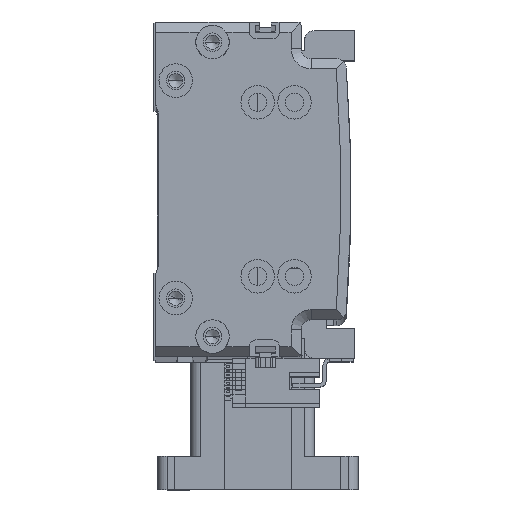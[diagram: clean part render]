
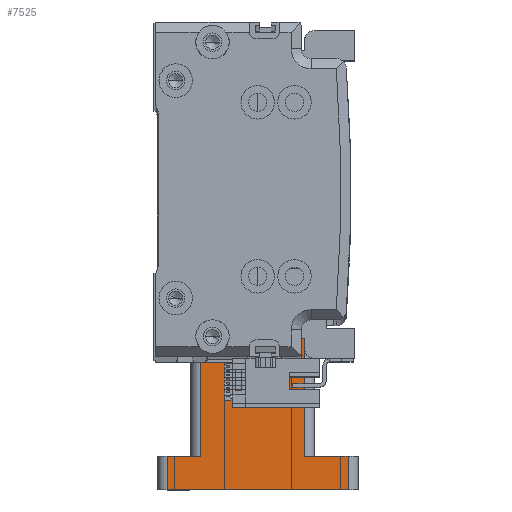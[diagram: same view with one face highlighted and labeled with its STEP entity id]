
A CAD part, top view. The second image highlights one B-rep face of the part: STEP entity #7525.
In plain terms, the highlighted planar face has unit normal (0, 0, 1) as drawn and (-1, 0, 0) by its records, which use the part's own axes.
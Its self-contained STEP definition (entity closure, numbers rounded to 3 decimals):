
#526 = LINE ( 'NONE', #13974, #32577 ) ;
#1551 = CARTESIAN_POINT ( 'NONE',  ( -30., -27., 44. ) ) ;
#2839 = DIRECTION ( 'NONE',  ( 0., 0., -1. ) ) ;
#3005 = DIRECTION ( 'NONE',  ( 1., 0., 0. ) ) ;
#3063 = VERTEX_POINT ( 'NONE', #5223 ) ;
#3172 = PLANE ( 'NONE',  #47792 ) ;
#5223 = CARTESIAN_POINT ( 'NONE',  ( -30., -27., 54. ) ) ;
#5946 = CARTESIAN_POINT ( 'NONE',  ( -30., 14., 0. ) ) ;
#6254 = CARTESIAN_POINT ( 'NONE',  ( -30., 14., 44. ) ) ;
#6448 = VERTEX_POINT ( 'NONE', #6254 ) ;
#6836 = ORIENTED_EDGE ( 'NONE', *, *, #29442, .T. ) ;
#7111 = CARTESIAN_POINT ( 'NONE',  ( -30., -30., 54. ) ) ;
#7525 = ADVANCED_FACE ( 'NONE', ( #49444 ), #3172, .F. ) ;
#7945 = EDGE_CURVE ( 'NONE', #15157, #3063, #48545, .T. ) ;
#7961 = ORIENTED_EDGE ( 'NONE', *, *, #49350, .T. ) ;
#8855 = VECTOR ( 'NONE', #41208, 1000. ) ;
#9674 = VECTOR ( 'NONE', #18802, 1000. ) ;
#10490 = VERTEX_POINT ( 'NONE', #37204 ) ;
#11185 = CARTESIAN_POINT ( 'NONE',  ( -30., -30., 0. ) ) ;
#11359 = VERTEX_POINT ( 'NONE', #12697 ) ;
#12697 = CARTESIAN_POINT ( 'NONE',  ( -30., 27., 54. ) ) ;
#13089 = ORIENTED_EDGE ( 'NONE', *, *, #48362, .T. ) ;
#13974 = CARTESIAN_POINT ( 'NONE',  ( -30., 27., 54. ) ) ;
#14429 = CARTESIAN_POINT ( 'NONE',  ( -30., -17., 54. ) ) ;
#15157 = VERTEX_POINT ( 'NONE', #1551 ) ;
#17153 = VECTOR ( 'NONE', #26728, 1000. ) ;
#17507 = LINE ( 'NONE', #28037, #48108 ) ;
#17891 = DIRECTION ( 'NONE',  ( 0., 0., -1. ) ) ;
#18132 = VECTOR ( 'NONE', #49554, 1000. ) ;
#18802 = DIRECTION ( 'NONE',  ( 0., -1., 0. ) ) ;
#18915 = CARTESIAN_POINT ( 'NONE',  ( -30., -30., 44. ) ) ;
#19503 = ORIENTED_EDGE ( 'NONE', *, *, #29560, .T. ) ;
#22608 = EDGE_CURVE ( 'NONE', #28718, #35340, #39234, .T. ) ;
#22829 = CARTESIAN_POINT ( 'NONE',  ( -30., -30., 54. ) ) ;
#23588 = EDGE_CURVE ( 'NONE', #11359, #3063, #37607, .T. ) ;
#25580 = LINE ( 'NONE', #14429, #44727 ) ;
#25856 = CARTESIAN_POINT ( 'NONE',  ( -30., 14., 54. ) ) ;
#26449 = CARTESIAN_POINT ( 'NONE',  ( -30., -17., 44. ) ) ;
#26728 = DIRECTION ( 'NONE',  ( 0., -1., 0. ) ) ;
#26805 = EDGE_LOOP ( 'NONE', ( #26947, #13089, #19503, #41354, #46511, #7961, #6836, #44655 ) ) ;
#26947 = ORIENTED_EDGE ( 'NONE', *, *, #22608, .T. ) ;
#28037 = CARTESIAN_POINT ( 'NONE',  ( -30., -20., 44. ) ) ;
#28372 = VERTEX_POINT ( 'NONE', #26449 ) ;
#28416 = LINE ( 'NONE', #18915, #18132 ) ;
#28718 = VERTEX_POINT ( 'NONE', #5946 ) ;
#29442 = EDGE_CURVE ( 'NONE', #10490, #6448, #28416, .T. ) ;
#29560 = EDGE_CURVE ( 'NONE', #28372, #15157, #17507, .T. ) ;
#30178 = LINE ( 'NONE', #25856, #39182 ) ;
#30559 = EDGE_CURVE ( 'NONE', #6448, #28718, #30178, .T. ) ;
#32577 = VECTOR ( 'NONE', #17891, 1000. ) ;
#35340 = VERTEX_POINT ( 'NONE', #48755 ) ;
#37204 = CARTESIAN_POINT ( 'NONE',  ( -30., 27., 44. ) ) ;
#37378 = CARTESIAN_POINT ( 'NONE',  ( -30., -27., 54. ) ) ;
#37607 = LINE ( 'NONE', #22829, #17153 ) ;
#39182 = VECTOR ( 'NONE', #41107, 1000. ) ;
#39234 = LINE ( 'NONE', #11185, #9674 ) ;
#41107 = DIRECTION ( 'NONE',  ( 0., 0., -1. ) ) ;
#41208 = DIRECTION ( 'NONE',  ( 0., 0., 1. ) ) ;
#41354 = ORIENTED_EDGE ( 'NONE', *, *, #7945, .T. ) ;
#44655 = ORIENTED_EDGE ( 'NONE', *, *, #30559, .T. ) ;
#44727 = VECTOR ( 'NONE', #45327, 1000. ) ;
#45327 = DIRECTION ( 'NONE',  ( 0., 0., 1. ) ) ;
#46511 = ORIENTED_EDGE ( 'NONE', *, *, #23588, .F. ) ;
#47076 = DIRECTION ( 'NONE',  ( 0., -1., 0. ) ) ;
#47792 = AXIS2_PLACEMENT_3D ( 'NONE', #7111, #3005, #2839 ) ;
#48108 = VECTOR ( 'NONE', #47076, 1000. ) ;
#48362 = EDGE_CURVE ( 'NONE', #35340, #28372, #25580, .T. ) ;
#48545 = LINE ( 'NONE', #37378, #8855 ) ;
#48755 = CARTESIAN_POINT ( 'NONE',  ( -30., -17., 0. ) ) ;
#49350 = EDGE_CURVE ( 'NONE', #11359, #10490, #526, .T. ) ;
#49444 = FACE_OUTER_BOUND ( 'NONE', #26805, .T. ) ;
#49554 = DIRECTION ( 'NONE',  ( 0., -1., 0. ) ) ;
